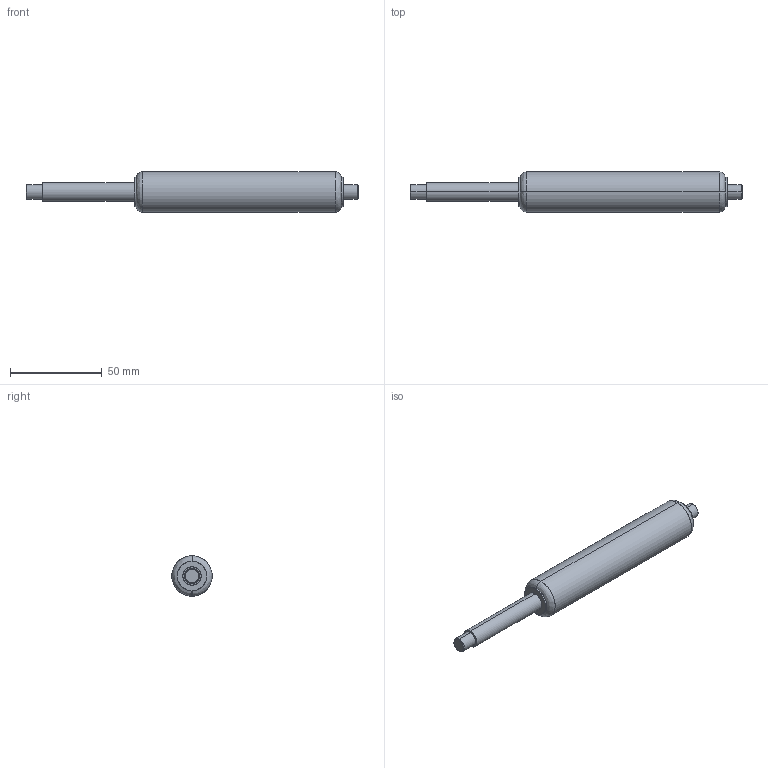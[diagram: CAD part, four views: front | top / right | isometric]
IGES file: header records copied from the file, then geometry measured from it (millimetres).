
Start section: SolidWorks IGES file using analytic representation for surfaces
Bounding box: 181 x 22 x 22 mm (x, y, z)
Surface area: 10373.8 mm2 (no closed solid volume)
Topology: 0 solids, 0 shells, 25 faces, 336 edges, 336 vertices
Faces by surface type: revolution 16, bspline 9
